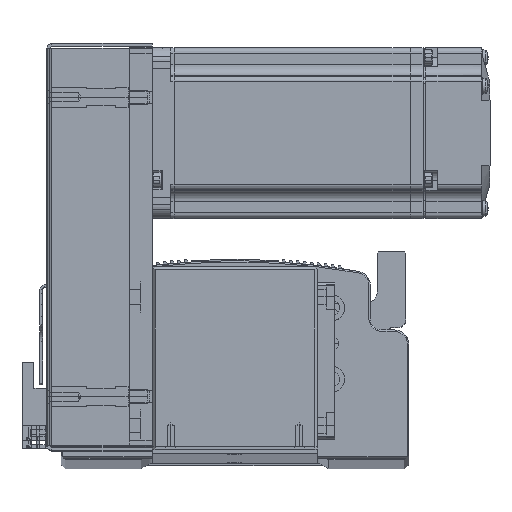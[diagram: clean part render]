
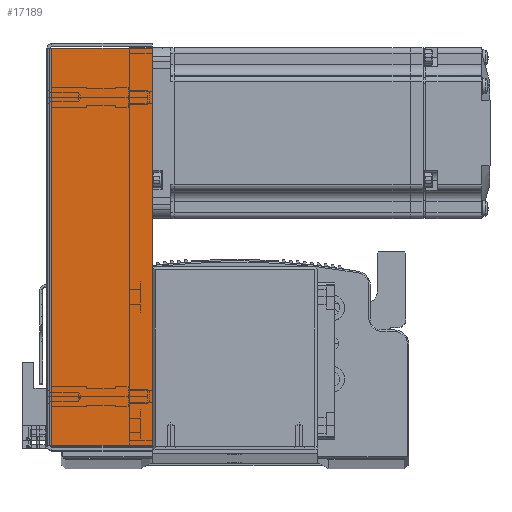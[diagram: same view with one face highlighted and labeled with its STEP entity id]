
A CAD part, top view. The second image highlights one B-rep face of the part: STEP entity #17189.
In plain terms, the highlighted planar face has unit normal (0, 0, 1) as drawn and (0, 0, -1) by its records, which use the part's own axes.
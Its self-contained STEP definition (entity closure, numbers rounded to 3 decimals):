
#17189 = ADVANCED_FACE ( 'NONE', ( #78939 ), #66147, .F. ) ;
#28809 = EDGE_LOOP ( 'NONE', ( #35079, #35156, #35069, #35129 ) ) ;
#33665 = CARTESIAN_POINT ( 'NONE',  ( 69.793, 0.737, -33.5 ) ) ;
#33716 = CARTESIAN_POINT ( 'NONE',  ( -69.793, 36., -33.5 ) ) ;
#33723 = CARTESIAN_POINT ( 'NONE',  ( 69.793, 36., -33.5 ) ) ;
#33744 = CARTESIAN_POINT ( 'NONE',  ( -69.793, 0.737, -33.5 ) ) ;
#35069 = ORIENTED_EDGE ( 'NONE', *, *, #86281, .T. ) ;
#35079 = ORIENTED_EDGE ( 'NONE', *, *, #86282, .F. ) ;
#35129 = ORIENTED_EDGE ( 'NONE', *, *, #86258, .F. ) ;
#35156 = ORIENTED_EDGE ( 'NONE', *, *, #86277, .T. ) ;
#36187 = AXIS2_PLACEMENT_3D ( 'NONE', #66157, #66288, #66191 ) ;
#50852 = CARTESIAN_POINT ( 'NONE',  ( 71.5, 0.737, -33.5 ) ) ;
#50857 = DIRECTION ( 'NONE',  ( 0., 1., 0. ) ) ;
#50859 = DIRECTION ( 'NONE',  ( 0., 1., 0. ) ) ;
#50860 = DIRECTION ( 'NONE',  ( 1., 0., 0. ) ) ;
#50863 = CARTESIAN_POINT ( 'NONE',  ( 69.793, 0., -33.5 ) ) ;
#50880 = CARTESIAN_POINT ( 'NONE',  ( -69.793, 0., -33.5 ) ) ;
#50881 = DIRECTION ( 'NONE',  ( 1., 0., 0. ) ) ;
#50890 = CARTESIAN_POINT ( 'NONE',  ( 0., 36., -33.5 ) ) ;
#52806 = VECTOR ( 'NONE', #50857, 1000. ) ;
#52810 = LINE ( 'NONE', #50863, #52848 ) ;
#52822 = LINE ( 'NONE', #50852, #52864 ) ;
#52830 = LINE ( 'NONE', #50880, #52806 ) ;
#52842 = LINE ( 'NONE', #50890, #52844 ) ;
#52844 = VECTOR ( 'NONE', #50881, 1000. ) ;
#52848 = VECTOR ( 'NONE', #50859, 1000. ) ;
#52864 = VECTOR ( 'NONE', #50860, 1000. ) ;
#62807 = VERTEX_POINT ( 'NONE', #33716 ) ;
#62815 = VERTEX_POINT ( 'NONE', #33665 ) ;
#62847 = VERTEX_POINT ( 'NONE', #33744 ) ;
#62859 = VERTEX_POINT ( 'NONE', #33723 ) ;
#66147 = PLANE ( 'NONE',  #36187 ) ;
#66157 = CARTESIAN_POINT ( 'NONE',  ( 0., 0., -33.5 ) ) ;
#66191 = DIRECTION ( 'NONE',  ( 0., -1., 0. ) ) ;
#66288 = DIRECTION ( 'NONE',  ( 0., 0., 1. ) ) ;
#78939 = FACE_OUTER_BOUND ( 'NONE', #28809, .T. ) ;
#86258 = EDGE_CURVE ( 'NONE', #62815, #62859, #52810, .T. ) ;
#86277 = EDGE_CURVE ( 'NONE', #62847, #62807, #52830, .T. ) ;
#86281 = EDGE_CURVE ( 'NONE', #62807, #62859, #52842, .T. ) ;
#86282 = EDGE_CURVE ( 'NONE', #62847, #62815, #52822, .T. ) ;
